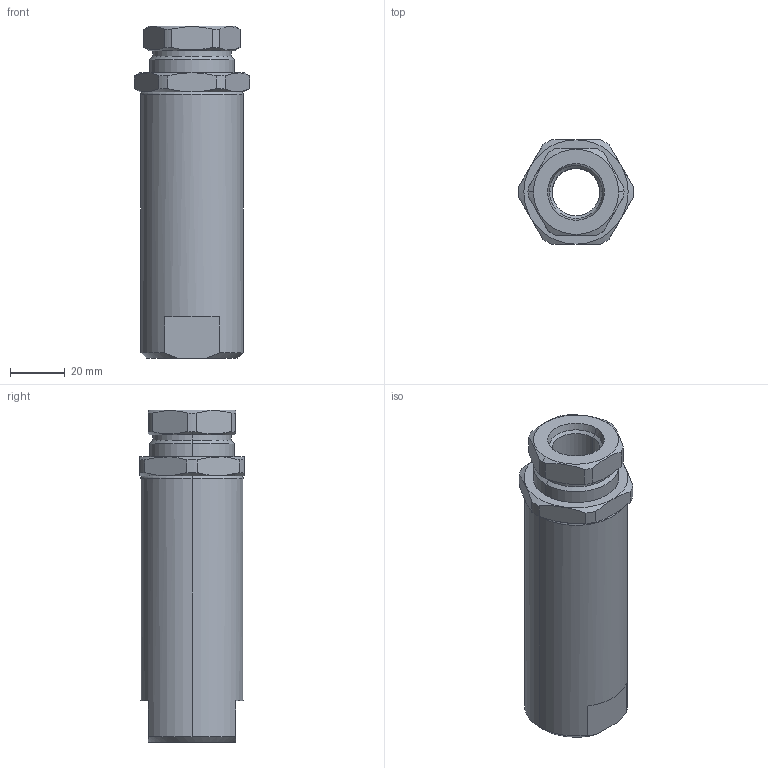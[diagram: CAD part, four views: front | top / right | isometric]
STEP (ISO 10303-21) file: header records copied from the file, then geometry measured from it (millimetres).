
FILE_DESCRIPTION (( 'STEP AP214' ), '1' );
FILE_NAME ('VSQ34001.STEP', '2025-06-03T23:29:39', ( '' ), ( '' ), 'SwSTEP 2.0', 'SolidWorks 2023', '' );
FILE_SCHEMA (( 'AUTOMOTIVE_DESIGN' ));
Length unit declared in the file: millimetre
Products named in the file (1): VSQ34001
Bounding box: 41.98 x 38.1 x 121 mm (x, y, z)
Surface area: 21186 mm2 (no closed solid volume)
Topology: 0 solids, 3 shells, 69 faces, 177 edges, 113 vertices
Faces by surface type: cylinder 23, cone 23, plane 21, torus 2
Entity records: 2342 total; most frequent: CARTESIAN_POINT 648, DIRECTION 366, ORIENTED_EDGE 342, EDGE_CURVE 177, AXIS2_PLACEMENT_3D 151, VERTEX_POINT 113, CIRCLE 81, EDGE_LOOP 74
